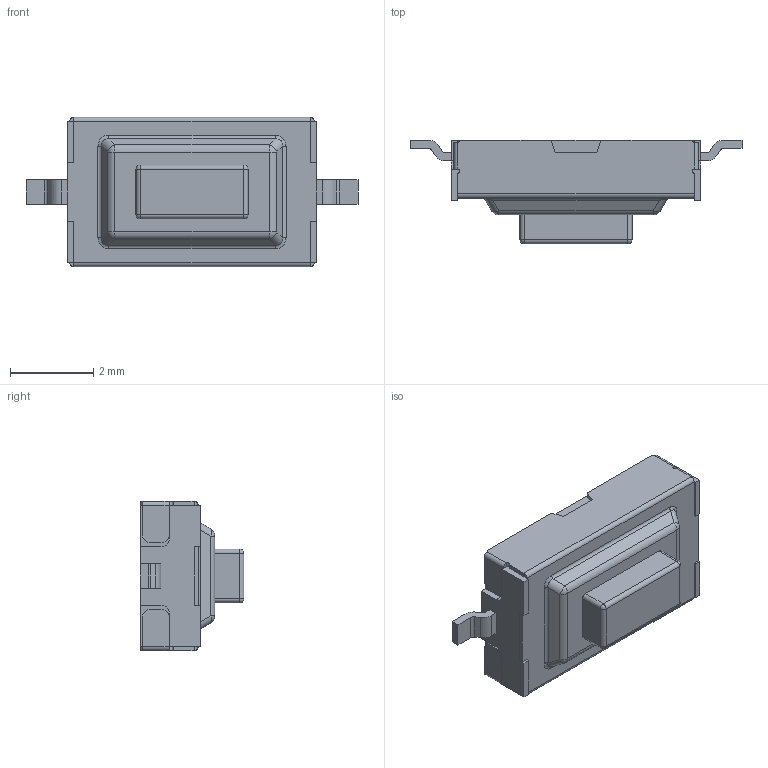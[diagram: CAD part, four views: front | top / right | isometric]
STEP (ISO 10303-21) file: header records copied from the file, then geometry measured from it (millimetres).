
FILE_DESCRIPTION((''),'2;1');
FILE_NAME('JQA3860-B0253-BEG-1-105_ASM','2026-07-02T15:57:12',('Admin'),(''),'CREO PARAMETRIC BY PTC INC, 2019224','CREO PARAMETRIC BY PTC INC, 2019224','');
FILE_SCHEMA(('AUTOMOTIVE_DESIGN { 1 0 10303 214 1 1 1 1 }'));
Length unit declared in the file: millimetre
Products named in the file (3): JQA3860-B0253-BEG-1-105_01; JQA3860-B0253-BEG-1-105_02; JQA3860-B0253-BEG-1-105_ASM
Assembly tree (2 placements, depth 2):
  JQA3860-B0253-BEG-1-105_ASM
    JQA3860-B0253-BEG-1-105_01
    JQA3860-B0253-BEG-1-105_02
Bounding box: 8 x 2.5 x 3.6 mm (x, y, z)
Volume: 36.6 mm3; surface area: 155.2 mm2
Topology: 2 solids, 2 shells, 244 faces, 582 edges, 348 vertices
Faces by surface type: plane 134, cylinder 82, sphere 16, bspline 12
Entity records: 9196 total; most frequent: CARTESIAN_POINT 2096, DIRECTION 1188, ORIENTED_EDGE 1164, EDGE_CURVE 582, VECTOR 406, LINE 406, AXIS2_PLACEMENT_3D 391, VERTEX_POINT 348
